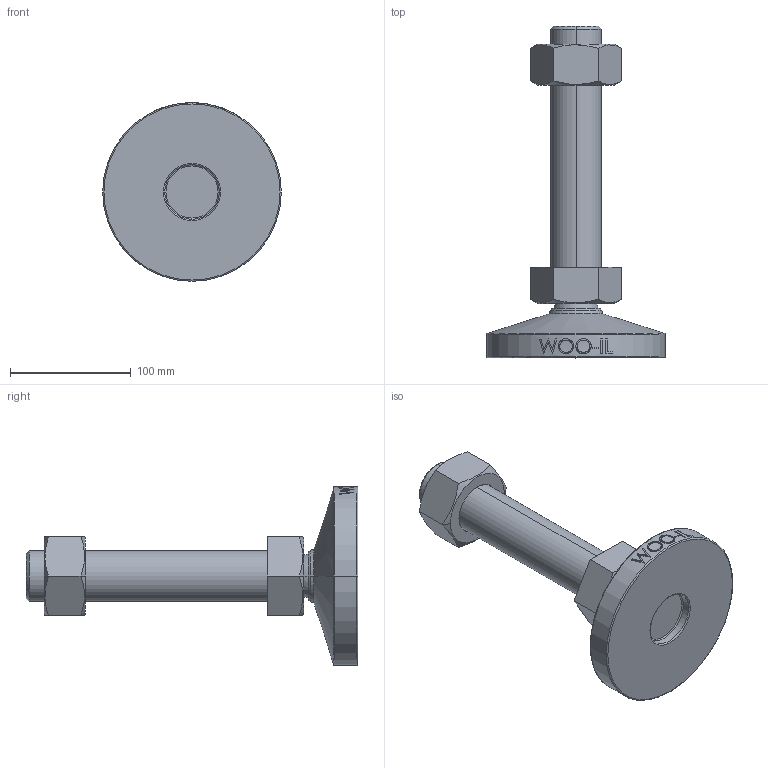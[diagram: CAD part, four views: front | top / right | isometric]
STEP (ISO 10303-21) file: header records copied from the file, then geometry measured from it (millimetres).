
FILE_DESCRIPTION (( 'STEP AP214' ), '1' );
FILE_NAME ('MFN148-M42-200.step', '2021-01-19T06:27:39', ( '' ), ( '' ), 'SwSTEP 2.0', 'SolidWorks 2019', '' );
FILE_SCHEMA (( 'AUTOMOTIVE_DESIGN' ));
Length unit declared in the file: millimetre
Products named in the file (2): MFN148-M42-200
Bounding box: 148 x 275 x 148 mm (x, y, z)
Volume: 935367.2 mm3; surface area: 100239 mm2
Topology: 2 solids, 2 shells, 107 faces, 247 edges, 156 vertices
Faces by surface type: plane 47, cone 18, cylinder 16, bspline 16, torus 8, sphere 2
Entity records: 4761 total; most frequent: CARTESIAN_POINT 2394, ORIENTED_EDGE 494, DIRECTION 447, EDGE_CURVE 247, AXIS2_PLACEMENT_3D 173, VERTEX_POINT 156, EDGE_LOOP 121, FACE_OUTER_BOUND 107
